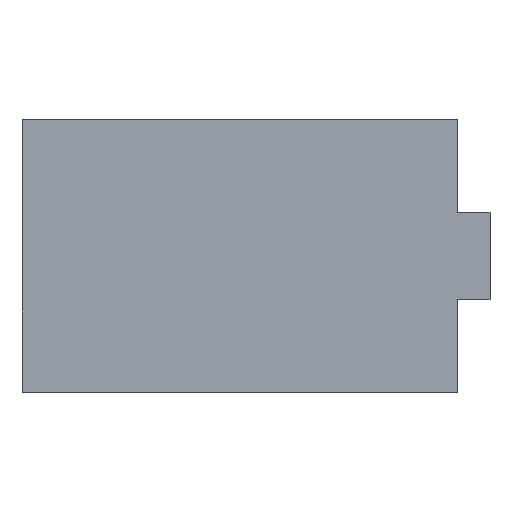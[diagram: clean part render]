
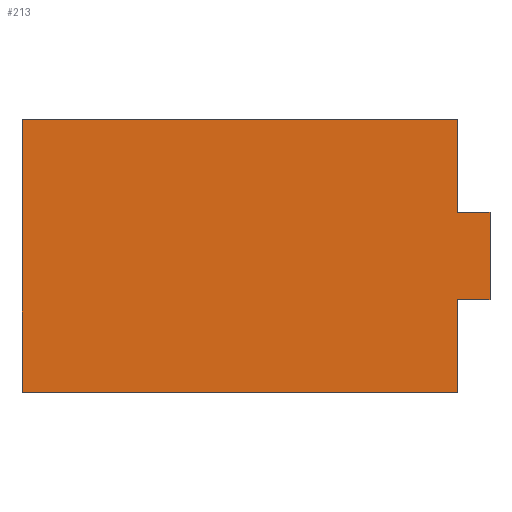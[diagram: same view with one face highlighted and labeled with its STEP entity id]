
A CAD part, top view. The second image highlights one B-rep face of the part: STEP entity #213.
In plain terms, the highlighted planar face has unit normal (0, 0, 1).
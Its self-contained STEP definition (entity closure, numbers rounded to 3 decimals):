
#24 = VERTEX_POINT('',#25);
#25 = CARTESIAN_POINT('',(0.,0.,2.));
#32 = PLANE('',#33);
#33 = AXIS2_PLACEMENT_3D('',#34,#35,#36);
#34 = CARTESIAN_POINT('',(0.,0.,0.));
#35 = DIRECTION('',(1.,0.,0.));
#36 = DIRECTION('',(0.,0.,1.));
#44 = PLANE('',#45);
#45 = AXIS2_PLACEMENT_3D('',#46,#47,#48);
#46 = CARTESIAN_POINT('',(0.,0.,0.));
#47 = DIRECTION('',(0.,1.,0.));
#48 = DIRECTION('',(0.,0.,1.));
#85 = VERTEX_POINT('',#86);
#86 = CARTESIAN_POINT('',(0.,25.,2.));
#100 = PLANE('',#101);
#101 = AXIS2_PLACEMENT_3D('',#102,#103,#104);
#102 = CARTESIAN_POINT('',(0.,25.,0.));
#103 = DIRECTION('',(0.,1.,0.));
#104 = DIRECTION('',(0.,0.,1.));
#112 = EDGE_CURVE('',#24,#85,#113,.T.);
#113 = SURFACE_CURVE('',#114,(#118,#125),.PCURVE_S1.);
#114 = LINE('',#115,#116);
#115 = CARTESIAN_POINT('',(0.,0.,2.));
#116 = VECTOR('',#117,1.);
#117 = DIRECTION('',(0.,1.,0.));
#118 = PCURVE('',#32,#119);
#119 = DEFINITIONAL_REPRESENTATION('',(#120),#124);
#120 = LINE('',#121,#122);
#121 = CARTESIAN_POINT('',(2.,0.));
#122 = VECTOR('',#123,1.);
#123 = DIRECTION('',(0.,-1.));
#124 = ( GEOMETRIC_REPRESENTATION_CONTEXT(2) 
PARAMETRIC_REPRESENTATION_CONTEXT() REPRESENTATION_CONTEXT('2D SPACE',''
  ) );
#125 = PCURVE('',#126,#131);
#126 = PLANE('',#127);
#127 = AXIS2_PLACEMENT_3D('',#128,#129,#130);
#128 = CARTESIAN_POINT('',(0.,0.,2.));
#129 = DIRECTION('',(0.,0.,1.));
#130 = DIRECTION('',(1.,0.,0.));
#131 = DEFINITIONAL_REPRESENTATION('',(#132),#136);
#132 = LINE('',#133,#134);
#133 = CARTESIAN_POINT('',(0.,0.));
#134 = VECTOR('',#135,1.);
#135 = DIRECTION('',(0.,1.));
#136 = ( GEOMETRIC_REPRESENTATION_CONTEXT(2) 
PARAMETRIC_REPRESENTATION_CONTEXT() REPRESENTATION_CONTEXT('2D SPACE',''
  ) );
#165 = EDGE_CURVE('',#24,#166,#168,.T.);
#166 = VERTEX_POINT('',#167);
#167 = CARTESIAN_POINT('',(40.,0.,2.));
#168 = SURFACE_CURVE('',#169,(#173,#180),.PCURVE_S1.);
#169 = LINE('',#170,#171);
#170 = CARTESIAN_POINT('',(0.,0.,2.));
#171 = VECTOR('',#172,1.);
#172 = DIRECTION('',(1.,0.,0.));
#173 = PCURVE('',#44,#174);
#174 = DEFINITIONAL_REPRESENTATION('',(#175),#179);
#175 = LINE('',#176,#177);
#176 = CARTESIAN_POINT('',(2.,0.));
#177 = VECTOR('',#178,1.);
#178 = DIRECTION('',(0.,1.));
#179 = ( GEOMETRIC_REPRESENTATION_CONTEXT(2) 
PARAMETRIC_REPRESENTATION_CONTEXT() REPRESENTATION_CONTEXT('2D SPACE',''
  ) );
#180 = PCURVE('',#126,#181);
#181 = DEFINITIONAL_REPRESENTATION('',(#182),#186);
#182 = LINE('',#183,#184);
#183 = CARTESIAN_POINT('',(0.,0.));
#184 = VECTOR('',#185,1.);
#185 = DIRECTION('',(1.,0.));
#186 = ( GEOMETRIC_REPRESENTATION_CONTEXT(2) 
PARAMETRIC_REPRESENTATION_CONTEXT() REPRESENTATION_CONTEXT('2D SPACE',''
  ) );
#202 = PLANE('',#203);
#203 = AXIS2_PLACEMENT_3D('',#204,#205,#206);
#204 = CARTESIAN_POINT('',(40.,0.,0.));
#205 = DIRECTION('',(1.,0.,0.));
#206 = DIRECTION('',(0.,0.,1.));
#213 = ADVANCED_FACE('',(#214),#126,.T.);
#214 = FACE_BOUND('',#215,.T.);
#215 = EDGE_LOOP('',(#216,#217,#218,#241,#269,#297,#325,#353));
#216 = ORIENTED_EDGE('',*,*,#112,.F.);
#217 = ORIENTED_EDGE('',*,*,#165,.T.);
#218 = ORIENTED_EDGE('',*,*,#219,.T.);
#219 = EDGE_CURVE('',#166,#220,#222,.T.);
#220 = VERTEX_POINT('',#221);
#221 = CARTESIAN_POINT('',(40.,8.5,2.));
#222 = SURFACE_CURVE('',#223,(#227,#234),.PCURVE_S1.);
#223 = LINE('',#224,#225);
#224 = CARTESIAN_POINT('',(40.,0.,2.));
#225 = VECTOR('',#226,1.);
#226 = DIRECTION('',(0.,1.,0.));
#227 = PCURVE('',#126,#228);
#228 = DEFINITIONAL_REPRESENTATION('',(#229),#233);
#229 = LINE('',#230,#231);
#230 = CARTESIAN_POINT('',(40.,0.));
#231 = VECTOR('',#232,1.);
#232 = DIRECTION('',(0.,1.));
#233 = ( GEOMETRIC_REPRESENTATION_CONTEXT(2) 
PARAMETRIC_REPRESENTATION_CONTEXT() REPRESENTATION_CONTEXT('2D SPACE',''
  ) );
#234 = PCURVE('',#202,#235);
#235 = DEFINITIONAL_REPRESENTATION('',(#236),#240);
#236 = LINE('',#237,#238);
#237 = CARTESIAN_POINT('',(2.,0.));
#238 = VECTOR('',#239,1.);
#239 = DIRECTION('',(0.,-1.));
#240 = ( GEOMETRIC_REPRESENTATION_CONTEXT(2) 
PARAMETRIC_REPRESENTATION_CONTEXT() REPRESENTATION_CONTEXT('2D SPACE',''
  ) );
#241 = ORIENTED_EDGE('',*,*,#242,.T.);
#242 = EDGE_CURVE('',#220,#243,#245,.T.);
#243 = VERTEX_POINT('',#244);
#244 = CARTESIAN_POINT('',(43.,8.5,2.));
#245 = SURFACE_CURVE('',#246,(#250,#257),.PCURVE_S1.);
#246 = LINE('',#247,#248);
#247 = CARTESIAN_POINT('',(40.,8.5,2.));
#248 = VECTOR('',#249,1.);
#249 = DIRECTION('',(1.,0.,0.));
#250 = PCURVE('',#126,#251);
#251 = DEFINITIONAL_REPRESENTATION('',(#252),#256);
#252 = LINE('',#253,#254);
#253 = CARTESIAN_POINT('',(40.,8.5));
#254 = VECTOR('',#255,1.);
#255 = DIRECTION('',(1.,0.));
#256 = ( GEOMETRIC_REPRESENTATION_CONTEXT(2) 
PARAMETRIC_REPRESENTATION_CONTEXT() REPRESENTATION_CONTEXT('2D SPACE',''
  ) );
#257 = PCURVE('',#258,#263);
#258 = PLANE('',#259);
#259 = AXIS2_PLACEMENT_3D('',#260,#261,#262);
#260 = CARTESIAN_POINT('',(40.,8.5,-4.));
#261 = DIRECTION('',(0.,1.,0.));
#262 = DIRECTION('',(0.,0.,1.));
#263 = DEFINITIONAL_REPRESENTATION('',(#264),#268);
#264 = LINE('',#265,#266);
#265 = CARTESIAN_POINT('',(6.,0.));
#266 = VECTOR('',#267,1.);
#267 = DIRECTION('',(0.,1.));
#268 = ( GEOMETRIC_REPRESENTATION_CONTEXT(2) 
PARAMETRIC_REPRESENTATION_CONTEXT() REPRESENTATION_CONTEXT('2D SPACE',''
  ) );
#269 = ORIENTED_EDGE('',*,*,#270,.T.);
#270 = EDGE_CURVE('',#243,#271,#273,.T.);
#271 = VERTEX_POINT('',#272);
#272 = CARTESIAN_POINT('',(43.,16.5,2.));
#273 = SURFACE_CURVE('',#274,(#278,#285),.PCURVE_S1.);
#274 = LINE('',#275,#276);
#275 = CARTESIAN_POINT('',(43.,8.5,2.));
#276 = VECTOR('',#277,1.);
#277 = DIRECTION('',(0.,1.,0.));
#278 = PCURVE('',#126,#279);
#279 = DEFINITIONAL_REPRESENTATION('',(#280),#284);
#280 = LINE('',#281,#282);
#281 = CARTESIAN_POINT('',(43.,8.5));
#282 = VECTOR('',#283,1.);
#283 = DIRECTION('',(0.,1.));
#284 = ( GEOMETRIC_REPRESENTATION_CONTEXT(2) 
PARAMETRIC_REPRESENTATION_CONTEXT() REPRESENTATION_CONTEXT('2D SPACE',''
  ) );
#285 = PCURVE('',#286,#291);
#286 = PLANE('',#287);
#287 = AXIS2_PLACEMENT_3D('',#288,#289,#290);
#288 = CARTESIAN_POINT('',(43.,8.5,-4.));
#289 = DIRECTION('',(1.,0.,0.));
#290 = DIRECTION('',(0.,0.,1.));
#291 = DEFINITIONAL_REPRESENTATION('',(#292),#296);
#292 = LINE('',#293,#294);
#293 = CARTESIAN_POINT('',(6.,0.));
#294 = VECTOR('',#295,1.);
#295 = DIRECTION('',(0.,-1.));
#296 = ( GEOMETRIC_REPRESENTATION_CONTEXT(2) 
PARAMETRIC_REPRESENTATION_CONTEXT() REPRESENTATION_CONTEXT('2D SPACE',''
  ) );
#297 = ORIENTED_EDGE('',*,*,#298,.F.);
#298 = EDGE_CURVE('',#299,#271,#301,.T.);
#299 = VERTEX_POINT('',#300);
#300 = CARTESIAN_POINT('',(40.,16.5,2.));
#301 = SURFACE_CURVE('',#302,(#306,#313),.PCURVE_S1.);
#302 = LINE('',#303,#304);
#303 = CARTESIAN_POINT('',(40.,16.5,2.));
#304 = VECTOR('',#305,1.);
#305 = DIRECTION('',(1.,0.,0.));
#306 = PCURVE('',#126,#307);
#307 = DEFINITIONAL_REPRESENTATION('',(#308),#312);
#308 = LINE('',#309,#310);
#309 = CARTESIAN_POINT('',(40.,16.5));
#310 = VECTOR('',#311,1.);
#311 = DIRECTION('',(1.,0.));
#312 = ( GEOMETRIC_REPRESENTATION_CONTEXT(2) 
PARAMETRIC_REPRESENTATION_CONTEXT() REPRESENTATION_CONTEXT('2D SPACE',''
  ) );
#313 = PCURVE('',#314,#319);
#314 = PLANE('',#315);
#315 = AXIS2_PLACEMENT_3D('',#316,#317,#318);
#316 = CARTESIAN_POINT('',(40.,16.5,-4.));
#317 = DIRECTION('',(0.,1.,0.));
#318 = DIRECTION('',(0.,0.,1.));
#319 = DEFINITIONAL_REPRESENTATION('',(#320),#324);
#320 = LINE('',#321,#322);
#321 = CARTESIAN_POINT('',(6.,0.));
#322 = VECTOR('',#323,1.);
#323 = DIRECTION('',(0.,1.));
#324 = ( GEOMETRIC_REPRESENTATION_CONTEXT(2) 
PARAMETRIC_REPRESENTATION_CONTEXT() REPRESENTATION_CONTEXT('2D SPACE',''
  ) );
#325 = ORIENTED_EDGE('',*,*,#326,.T.);
#326 = EDGE_CURVE('',#299,#327,#329,.T.);
#327 = VERTEX_POINT('',#328);
#328 = CARTESIAN_POINT('',(40.,25.,2.));
#329 = SURFACE_CURVE('',#330,(#334,#341),.PCURVE_S1.);
#330 = LINE('',#331,#332);
#331 = CARTESIAN_POINT('',(40.,0.,2.));
#332 = VECTOR('',#333,1.);
#333 = DIRECTION('',(0.,1.,0.));
#334 = PCURVE('',#126,#335);
#335 = DEFINITIONAL_REPRESENTATION('',(#336),#340);
#336 = LINE('',#337,#338);
#337 = CARTESIAN_POINT('',(40.,0.));
#338 = VECTOR('',#339,1.);
#339 = DIRECTION('',(0.,1.));
#340 = ( GEOMETRIC_REPRESENTATION_CONTEXT(2) 
PARAMETRIC_REPRESENTATION_CONTEXT() REPRESENTATION_CONTEXT('2D SPACE',''
  ) );
#341 = PCURVE('',#342,#347);
#342 = PLANE('',#343);
#343 = AXIS2_PLACEMENT_3D('',#344,#345,#346);
#344 = CARTESIAN_POINT('',(40.,0.,0.));
#345 = DIRECTION('',(1.,0.,0.));
#346 = DIRECTION('',(0.,0.,1.));
#347 = DEFINITIONAL_REPRESENTATION('',(#348),#352);
#348 = LINE('',#349,#350);
#349 = CARTESIAN_POINT('',(2.,0.));
#350 = VECTOR('',#351,1.);
#351 = DIRECTION('',(0.,-1.));
#352 = ( GEOMETRIC_REPRESENTATION_CONTEXT(2) 
PARAMETRIC_REPRESENTATION_CONTEXT() REPRESENTATION_CONTEXT('2D SPACE',''
  ) );
#353 = ORIENTED_EDGE('',*,*,#354,.F.);
#354 = EDGE_CURVE('',#85,#327,#355,.T.);
#355 = SURFACE_CURVE('',#356,(#360,#367),.PCURVE_S1.);
#356 = LINE('',#357,#358);
#357 = CARTESIAN_POINT('',(0.,25.,2.));
#358 = VECTOR('',#359,1.);
#359 = DIRECTION('',(1.,0.,0.));
#360 = PCURVE('',#126,#361);
#361 = DEFINITIONAL_REPRESENTATION('',(#362),#366);
#362 = LINE('',#363,#364);
#363 = CARTESIAN_POINT('',(0.,25.));
#364 = VECTOR('',#365,1.);
#365 = DIRECTION('',(1.,0.));
#366 = ( GEOMETRIC_REPRESENTATION_CONTEXT(2) 
PARAMETRIC_REPRESENTATION_CONTEXT() REPRESENTATION_CONTEXT('2D SPACE',''
  ) );
#367 = PCURVE('',#100,#368);
#368 = DEFINITIONAL_REPRESENTATION('',(#369),#373);
#369 = LINE('',#370,#371);
#370 = CARTESIAN_POINT('',(2.,0.));
#371 = VECTOR('',#372,1.);
#372 = DIRECTION('',(0.,1.));
#373 = ( GEOMETRIC_REPRESENTATION_CONTEXT(2) 
PARAMETRIC_REPRESENTATION_CONTEXT() REPRESENTATION_CONTEXT('2D SPACE',''
  ) );
